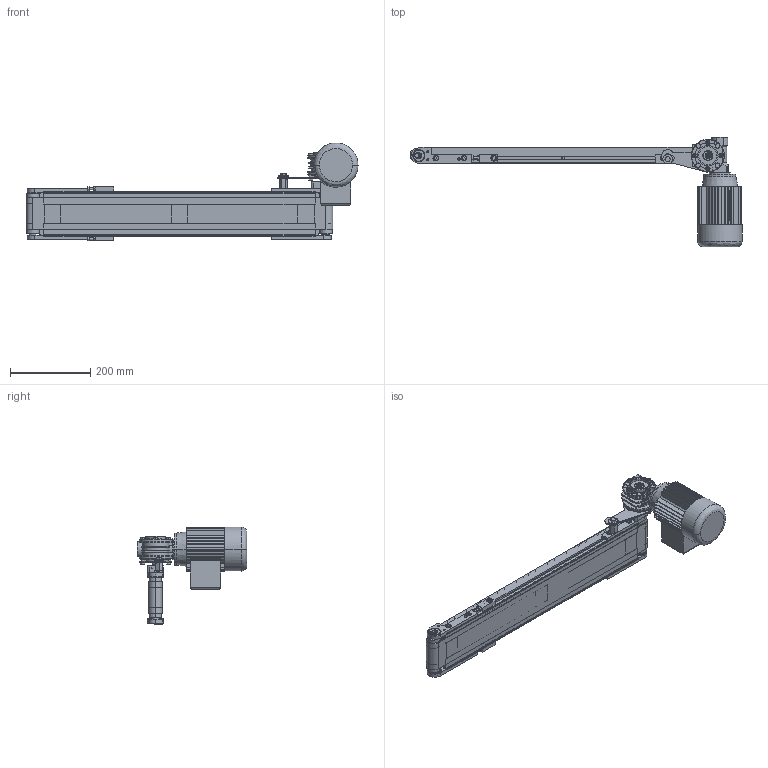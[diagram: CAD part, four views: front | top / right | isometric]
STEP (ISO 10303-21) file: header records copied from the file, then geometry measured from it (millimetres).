
FILE_DESCRIPTION (( 'STEP AP203' ), '1' );
FILE_NAME ('NASTRO_RETTILINEO_TAPPETO.step', '2026-06-04T12:52:26', ( 'Utente Windows' ), ( '' ), 'SwSTEP 2.0', 'SolidWorks 2024', '' );
FILE_SCHEMA (( 'CONFIG_CONTROL_DESIGN' ));
Length unit declared in the file: millimetre
Products named in the file (31): TAPPETO_STANDARD; CH03P_DX; 084.801.025; 084.807.005; 084.301.000 VITI ALUSIC_084.301.003; 084.802.062; RULLO_30_RINVIO; CUSCINETTI CB_CB 202; BLOCCO_RINVIO_30_STANDARD_SX; BLOCCO_RINVIO_30_STANDARD_DX; BLOCCO_TRAINO_30_STANDARD_SX_MOTORE A SINISTRA; LAMIERA_STANDARD; TELAIO_30_STANDARD_Default<A macchina>; RONDELLE FASCIA LARGA UNI 6593_8.4x24 UNI 6593; 084.801.027 sx; 084.303.001; RULLO_30_TRAINO_30_DX; 084.302.000 DADI ALUSIC 13x13-1_084.302.004; 084.801.027 dx; 084.301.000 VITI ALUSIC_084.301.002; BLOCCO_TRAINO_30_STANDARD_30_DX_MOTORE A SINISTRA; NASTRO_RETTILINEO_TAPPETO; GRANI A PUNTA PIATTA UNI 5923_M8x20 UNI 5923; 084.301.000 VITI ALUSIC_084.301.011; 084.802.027; 62012RSBOMB_62012RSBOMB; RONDELLE UNI 6592_6.4x12.5 UNI 6592; VITI TE UNI 5739_M6x10 UNI 5739; 084.802.008; VITI TE UNI 5739_M8x16 UNI 5739; VITE_RONDELLA_M8X20
Assembly tree (62 placements, depth 3):
  NASTRO_RETTILINEO_TAPPETO
    TAPPETO_STANDARD
    TELAIO_30_STANDARD_Default<A macchina>
    LAMIERA_STANDARD
    RULLO_30_TRAINO_30_DX
    BLOCCO_TRAINO_30_STANDARD_30_DX_MOTORE A SINISTRA
      084.802.027
      084.807.005
      084.801.027 dx
      084.801.025
      CUSCINETTI CB_CB 202
      084.301.000 VITI ALUSIC_084.301.002  x2
      084.302.000 DADI ALUSIC 13x13-1_084.302.004  x2
      084.301.000 VITI ALUSIC_084.301.011  x2
      VITI TE UNI 5739_M8x16 UNI 5739
      RONDELLE FASCIA LARGA UNI 6593_8.4x24 UNI 6593
      GRANI A PUNTA PIATTA UNI 5923_M8x20 UNI 5923
      RONDELLE UNI 6592_6.4x12.5 UNI 6592  x4
      VITI TE UNI 5739_M6x10 UNI 5739  x4
      084.802.062
    BLOCCO_TRAINO_30_STANDARD_SX_MOTORE A SINISTRA
      084.801.027 sx
      62012RSBOMB_62012RSBOMB
      084.302.000 DADI ALUSIC 13x13-1_084.302.004  x2
      084.301.000 VITI ALUSIC_084.301.002  x2
    RULLO_30_RINVIO
    BLOCCO_RINVIO_30_STANDARD_SX
      084.802.008
      084.801.027 sx
      62012RSBOMB_62012RSBOMB
      084.302.000 DADI ALUSIC 13x13-1_084.302.004  x3
      084.301.000 VITI ALUSIC_084.301.002  x2
      084.301.000 VITI ALUSIC_084.301.003
    BLOCCO_RINVIO_30_STANDARD_DX
      084.802.008
      084.801.027 dx
      62012RSBOMB_62012RSBOMB
      084.302.000 DADI ALUSIC 13x13-1_084.302.004  x3
      084.301.000 VITI ALUSIC_084.301.002  x2
      084.301.000 VITI ALUSIC_084.301.003
    VITE_RONDELLA_M8X20  x3
      084.303.001
      084.301.000 VITI ALUSIC_084.301.003
    CH03P_DX
Bounding box: 827 x 273 x 244 mm (x, y, z)
Volume: 3278207 mm3; surface area: 1187796.3 mm2
Topology: 67 solids, 69 shells, 2017 faces, 5101 edges, 3287 vertices
Faces by surface type: plane 1030, cylinder 665, cone 154, torus 98, bspline 50, sphere 20
Entity records: 44172 total; most frequent: CARTESIAN_POINT 7938, DIRECTION 7001, ORIENTED_EDGE 6496, EDGE_CURVE 3248, AXIS2_PLACEMENT_3D 2562, VERTEX_POINT 2089, VECTOR 1877, LINE 1877
